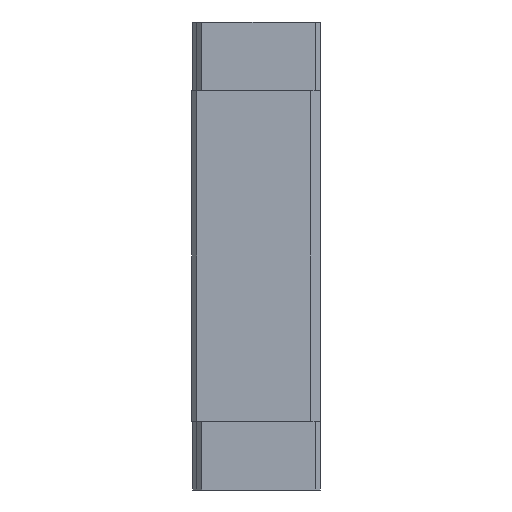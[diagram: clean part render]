
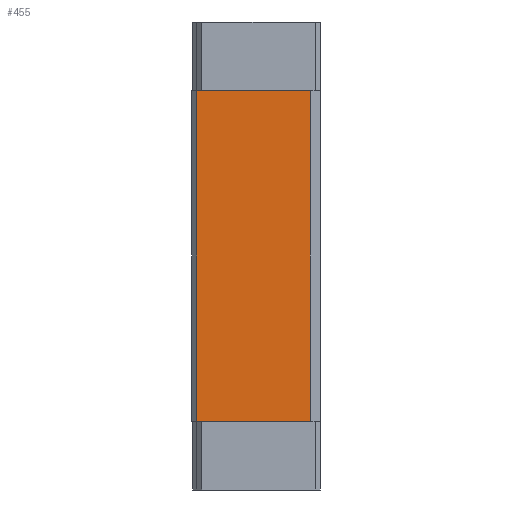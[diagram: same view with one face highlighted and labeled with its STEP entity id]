
A CAD part, left-side view. The second image highlights one B-rep face of the part: STEP entity #455.
In plain terms, the highlighted planar face has unit normal (-1, 0, 0).
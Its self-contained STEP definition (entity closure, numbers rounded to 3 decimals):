
#10 = DIRECTION ( 'NONE',  ( 0., 0., -1. ) ) ;
#141 = CARTESIAN_POINT ( 'NONE',  ( -22., 11.5, -32.6 ) ) ;
#455 = ADVANCED_FACE ( 'NONE', ( #2668 ), #2118, .F. ) ;
#475 = VERTEX_POINT ( 'NONE', #141 ) ;
#556 = CARTESIAN_POINT ( 'NONE',  ( -22., 12., 32.6 ) ) ;
#593 = EDGE_CURVE ( 'NONE', #6151, #475, #3586, .T. ) ;
#598 = ORIENTED_EDGE ( 'NONE', *, *, #593, .T. ) ;
#726 = LINE ( 'NONE', #8560, #744 ) ;
#744 = VECTOR ( 'NONE', #7622, 1000. ) ;
#1678 = DIRECTION ( 'NONE',  ( 1., 0., 0. ) ) ;
#1932 = EDGE_LOOP ( 'NONE', ( #3086, #598, #5961, #7784 ) ) ;
#2081 = EDGE_CURVE ( 'NONE', #3566, #9274, #726, .T. ) ;
#2118 = PLANE ( 'NONE',  #3435 ) ;
#2339 = CARTESIAN_POINT ( 'NONE',  ( -22., 11.5, 0. ) ) ;
#2398 = DIRECTION ( 'NONE',  ( 0., 0., -1. ) ) ;
#2668 = FACE_OUTER_BOUND ( 'NONE', #1932, .T. ) ;
#3086 = ORIENTED_EDGE ( 'NONE', *, *, #7085, .T. ) ;
#3297 = EDGE_CURVE ( 'NONE', #475, #9274, #8585, .T. ) ;
#3435 = AXIS2_PLACEMENT_3D ( 'NONE', #4477, #1678, #10 ) ;
#3566 = VERTEX_POINT ( 'NONE', #9080 ) ;
#3586 = LINE ( 'NONE', #2339, #3600 ) ;
#3600 = VECTOR ( 'NONE', #2398, 1000. ) ;
#3931 = LINE ( 'NONE', #556, #7594 ) ;
#4477 = CARTESIAN_POINT ( 'NONE',  ( -22., 0., 0. ) ) ;
#4993 = DIRECTION ( 'NONE',  ( 0., 1., 0. ) ) ;
#5616 = CARTESIAN_POINT ( 'NONE',  ( -22., 11.5, 32.6 ) ) ;
#5961 = ORIENTED_EDGE ( 'NONE', *, *, #3297, .T. ) ;
#6151 = VERTEX_POINT ( 'NONE', #5616 ) ;
#6632 = DIRECTION ( 'NONE',  ( 0., -1., 0. ) ) ;
#6660 = CARTESIAN_POINT ( 'NONE',  ( -22., -12.9, -32.6 ) ) ;
#7085 = EDGE_CURVE ( 'NONE', #3566, #6151, #3931, .T. ) ;
#7594 = VECTOR ( 'NONE', #4993, 1000. ) ;
#7622 = DIRECTION ( 'NONE',  ( 0., 0., -1. ) ) ;
#7784 = ORIENTED_EDGE ( 'NONE', *, *, #2081, .F. ) ;
#8454 = VECTOR ( 'NONE', #6632, 1000. ) ;
#8463 = CARTESIAN_POINT ( 'NONE',  ( -22., -10.9, -32.6 ) ) ;
#8560 = CARTESIAN_POINT ( 'NONE',  ( -22., -10.9, 32.6 ) ) ;
#8585 = LINE ( 'NONE', #6660, #8454 ) ;
#9080 = CARTESIAN_POINT ( 'NONE',  ( -22., -10.9, 32.6 ) ) ;
#9274 = VERTEX_POINT ( 'NONE', #8463 ) ;
